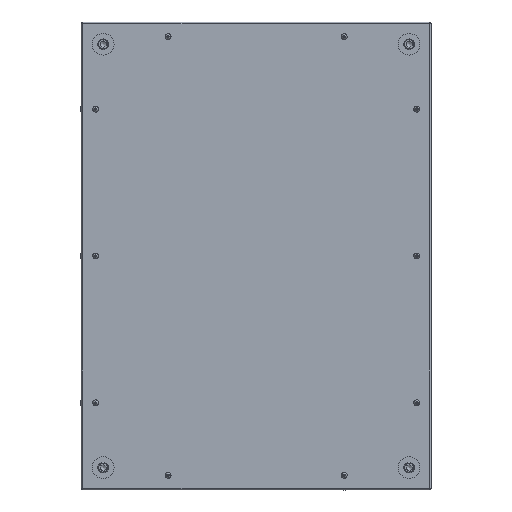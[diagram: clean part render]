
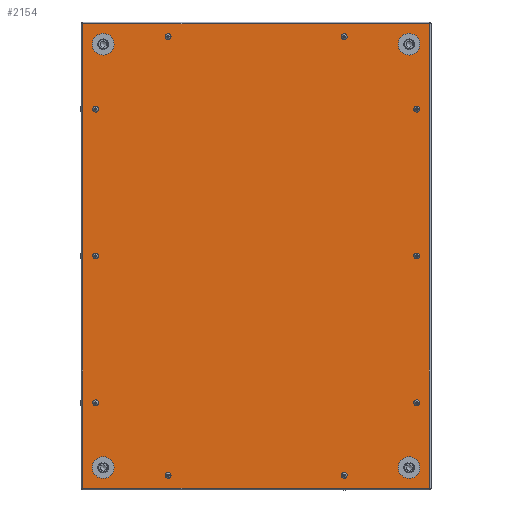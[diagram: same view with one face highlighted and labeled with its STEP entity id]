
A CAD part, top view. The second image highlights one B-rep face of the part: STEP entity #2154.
In plain terms, the highlighted planar face has unit normal (0, 0, 1).
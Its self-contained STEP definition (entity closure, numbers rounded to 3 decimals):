
#2154=ADVANCED_FACE('',(#3209,#3211,#3213,#3215,#3217,#3219,#3221,#3223,#3225,#3227,
#3229,#3231,#3233,#3235,#3237),#3239,.T.);
#3209=FACE_BOUND('',#3210,.T.);
#3210=EDGE_LOOP('',(#8692,#8693,#8694,#8695));
#3211=FACE_BOUND('',#3212,.T.);
#3212=EDGE_LOOP('',(#8696));
#3213=FACE_BOUND('',#3214,.T.);
#3214=EDGE_LOOP('',(#8697));
#3215=FACE_BOUND('',#3216,.T.);
#3216=EDGE_LOOP('',(#8698));
#3217=FACE_BOUND('',#3218,.T.);
#3218=EDGE_LOOP('',(#8699));
#3219=FACE_BOUND('',#3220,.T.);
#3220=EDGE_LOOP('',(#8700));
#3221=FACE_BOUND('',#3222,.T.);
#3222=EDGE_LOOP('',(#8701));
#3223=FACE_BOUND('',#3224,.T.);
#3224=EDGE_LOOP('',(#8702));
#3225=FACE_BOUND('',#3226,.T.);
#3226=EDGE_LOOP('',(#8703));
#3227=FACE_BOUND('',#3228,.T.);
#3228=EDGE_LOOP('',(#8704));
#3229=FACE_BOUND('',#3230,.T.);
#3230=EDGE_LOOP('',(#8705));
#3231=FACE_BOUND('',#3232,.T.);
#3232=EDGE_LOOP('',(#8706));
#3233=FACE_BOUND('',#3234,.T.);
#3234=EDGE_LOOP('',(#8707));
#3235=FACE_BOUND('',#3236,.T.);
#3236=EDGE_LOOP('',(#8708));
#3237=FACE_BOUND('',#3238,.T.);
#3238=EDGE_LOOP('',(#8709));
#3239=PLANE('',#3240);
#3240=AXIS2_PLACEMENT_3D('',#3241,#3242,#3243);
#3241=CARTESIAN_POINT('',(0.,0.,1.5));
#3242=DIRECTION('',(0.,0.,1.));
#3243=DIRECTION('',(0.,1.,0.));
#8692=ORIENTED_EDGE('',*,*,#10403,.T.);
#8693=ORIENTED_EDGE('',*,*,#10404,.T.);
#8694=ORIENTED_EDGE('',*,*,#10405,.T.);
#8695=ORIENTED_EDGE('',*,*,#10406,.T.);
#8696=ORIENTED_EDGE('',*,*,#10382,.T.);
#8697=ORIENTED_EDGE('',*,*,#10381,.T.);
#8698=ORIENTED_EDGE('',*,*,#10380,.T.);
#8699=ORIENTED_EDGE('',*,*,#10379,.T.);
#8700=ORIENTED_EDGE('',*,*,#10378,.T.);
#8701=ORIENTED_EDGE('',*,*,#10377,.T.);
#8702=ORIENTED_EDGE('',*,*,#10373,.T.);
#8703=ORIENTED_EDGE('',*,*,#10374,.T.);
#8704=ORIENTED_EDGE('',*,*,#10375,.T.);
#8705=ORIENTED_EDGE('',*,*,#10376,.T.);
#8706=ORIENTED_EDGE('',*,*,#10371,.T.);
#8707=ORIENTED_EDGE('',*,*,#10370,.T.);
#8708=ORIENTED_EDGE('',*,*,#10369,.T.);
#8709=ORIENTED_EDGE('',*,*,#10368,.T.);
#10368=EDGE_CURVE('',#11408,#11408,#11409,.F.);
#10369=EDGE_CURVE('',#11410,#11410,#11411,.F.);
#10370=EDGE_CURVE('',#11412,#11412,#11413,.F.);
#10371=EDGE_CURVE('',#11414,#11414,#11415,.F.);
#10373=EDGE_CURVE('',#11418,#11418,#11419,.F.);
#10374=EDGE_CURVE('',#11420,#11420,#11421,.F.);
#10375=EDGE_CURVE('',#11422,#11422,#11423,.F.);
#10376=EDGE_CURVE('',#11424,#11424,#11425,.F.);
#10377=EDGE_CURVE('',#11426,#11426,#11427,.F.);
#10378=EDGE_CURVE('',#11428,#11428,#11429,.F.);
#10379=EDGE_CURVE('',#11430,#11430,#11431,.F.);
#10380=EDGE_CURVE('',#11432,#11432,#11433,.F.);
#10381=EDGE_CURVE('',#11434,#11434,#11435,.F.);
#10382=EDGE_CURVE('',#11436,#11436,#11437,.F.);
#10403=EDGE_CURVE('',#11474,#11475,#11476,.T.);
#10404=EDGE_CURVE('',#11475,#11477,#11478,.T.);
#10405=EDGE_CURVE('',#11477,#11479,#11480,.T.);
#10406=EDGE_CURVE('',#11479,#11474,#11481,.T.);
#11408=VERTEX_POINT('',#13322);
#11409=CIRCLE('',#13323,3.75);
#11410=VERTEX_POINT('',#13327);
#11411=CIRCLE('',#13328,3.75);
#11412=VERTEX_POINT('',#13332);
#11413=CIRCLE('',#13333,3.75);
#11414=VERTEX_POINT('',#13337);
#11415=CIRCLE('',#13338,3.75);
#11418=VERTEX_POINT('',#13347);
#11419=CIRCLE('',#13348,7.);
#11420=VERTEX_POINT('',#13352);
#11421=CIRCLE('',#13353,7.);
#11422=VERTEX_POINT('',#13357);
#11423=CIRCLE('',#13358,7.);
#11424=VERTEX_POINT('',#13362);
#11425=CIRCLE('',#13363,7.);
#11426=VERTEX_POINT('',#13367);
#11427=CIRCLE('',#13368,3.75);
#11428=VERTEX_POINT('',#13372);
#11429=CIRCLE('',#13373,3.75);
#11430=VERTEX_POINT('',#13377);
#11431=CIRCLE('',#13378,3.75);
#11432=VERTEX_POINT('',#13382);
#11433=CIRCLE('',#13383,3.75);
#11434=VERTEX_POINT('',#13387);
#11435=CIRCLE('',#13388,3.75);
#11436=VERTEX_POINT('',#13392);
#11437=CIRCLE('',#13393,3.75);
#11474=VERTEX_POINT('',#13609);
#11475=VERTEX_POINT('',#13610);
#11476=LINE('',#13611,#13612);
#11477=VERTEX_POINT('',#13614);
#11478=LINE('',#13615,#13616);
#11479=VERTEX_POINT('',#13618);
#11480=LINE('',#13619,#13620);
#11481=LINE('',#13622,#13623);
#13322=CARTESIAN_POINT('',(-273.5,253.75,1.5));
#13323=AXIS2_PLACEMENT_3D('',#13324,#13325,#13326);
#13324=CARTESIAN_POINT('',(-273.5,250.,1.5));
#13325=DIRECTION('',(0.,0.,1.));
#13326=DIRECTION('',(0.,1.,0.));
#13327=CARTESIAN_POINT('',(273.5,-246.25,1.5));
#13328=AXIS2_PLACEMENT_3D('',#13329,#13330,#13331);
#13329=CARTESIAN_POINT('',(273.5,-250.,1.5));
#13330=DIRECTION('',(0.,0.,1.));
#13331=DIRECTION('',(0.,1.,0.));
#13332=CARTESIAN_POINT('',(273.5,253.75,1.5));
#13333=AXIS2_PLACEMENT_3D('',#13334,#13335,#13336);
#13334=CARTESIAN_POINT('',(273.5,250.,1.5));
#13335=DIRECTION('',(0.,0.,1.));
#13336=DIRECTION('',(0.,1.,0.));
#13337=CARTESIAN_POINT('',(-273.5,-246.25,1.5));
#13338=AXIS2_PLACEMENT_3D('',#13339,#13340,#13341);
#13339=CARTESIAN_POINT('',(-273.5,-250.,1.5));
#13340=DIRECTION('',(0.,0.,1.));
#13341=DIRECTION('',(0.,1.,0.));
#13347=CARTESIAN_POINT('',(260.5,367.5,1.5));
#13348=AXIS2_PLACEMENT_3D('',#13349,#13350,#13351);
#13349=CARTESIAN_POINT('',(260.5,360.5,1.5));
#13350=DIRECTION('',(0.,0.,1.));
#13351=DIRECTION('',(0.,1.,0.));
#13352=CARTESIAN_POINT('',(-260.5,-353.5,1.5));
#13353=AXIS2_PLACEMENT_3D('',#13354,#13355,#13356);
#13354=CARTESIAN_POINT('',(-260.5,-360.5,1.5));
#13355=DIRECTION('',(0.,0.,1.));
#13356=DIRECTION('',(0.,1.,0.));
#13357=CARTESIAN_POINT('',(-260.5,367.5,1.5));
#13358=AXIS2_PLACEMENT_3D('',#13359,#13360,#13361);
#13359=CARTESIAN_POINT('',(-260.5,360.5,1.5));
#13360=DIRECTION('',(0.,0.,1.));
#13361=DIRECTION('',(0.,1.,0.));
#13362=CARTESIAN_POINT('',(260.5,-353.5,1.5));
#13363=AXIS2_PLACEMENT_3D('',#13364,#13365,#13366);
#13364=CARTESIAN_POINT('',(260.5,-360.5,1.5));
#13365=DIRECTION('',(0.,0.,1.));
#13366=DIRECTION('',(0.,1.,0.));
#13367=CARTESIAN_POINT('',(-273.5,3.75,1.5));
#13368=AXIS2_PLACEMENT_3D('',#13369,#13370,#13371);
#13369=CARTESIAN_POINT('',(-273.5,0.,1.5));
#13370=DIRECTION('',(0.,0.,1.));
#13371=DIRECTION('',(0.,1.,0.));
#13372=CARTESIAN_POINT('',(273.5,3.75,1.5));
#13373=AXIS2_PLACEMENT_3D('',#13374,#13375,#13376);
#13374=CARTESIAN_POINT('',(273.5,0.,1.5));
#13375=DIRECTION('',(0.,0.,1.));
#13376=DIRECTION('',(0.,1.,0.));
#13377=CARTESIAN_POINT('',(-150.,-369.75,1.5));
#13378=AXIS2_PLACEMENT_3D('',#13379,#13380,#13381);
#13379=CARTESIAN_POINT('',(-150.,-373.5,1.5));
#13380=DIRECTION('',(0.,0.,1.));
#13381=DIRECTION('',(0.,1.,0.));
#13382=CARTESIAN_POINT('',(150.,377.25,1.5));
#13383=AXIS2_PLACEMENT_3D('',#13384,#13385,#13386);
#13384=CARTESIAN_POINT('',(150.,373.5,1.5));
#13385=DIRECTION('',(0.,0.,1.));
#13386=DIRECTION('',(0.,1.,0.));
#13387=CARTESIAN_POINT('',(-150.,377.25,1.5));
#13388=AXIS2_PLACEMENT_3D('',#13389,#13390,#13391);
#13389=CARTESIAN_POINT('',(-150.,373.5,1.5));
#13390=DIRECTION('',(0.,0.,1.));
#13391=DIRECTION('',(0.,1.,0.));
#13392=CARTESIAN_POINT('',(150.,-369.75,1.5));
#13393=AXIS2_PLACEMENT_3D('',#13394,#13395,#13396);
#13394=CARTESIAN_POINT('',(150.,-373.5,1.5));
#13395=DIRECTION('',(0.,0.,1.));
#13396=DIRECTION('',(0.,1.,0.));
#13609=CARTESIAN_POINT('',(295.2,395.2,1.5));
#13610=CARTESIAN_POINT('',(-295.2,395.2,1.5));
#13611=CARTESIAN_POINT('',(295.2,395.2,1.5));
#13612=VECTOR('',#13613,1.);
#13613=DIRECTION('',(-1.,0.,0.));
#13614=CARTESIAN_POINT('',(-295.2,-395.2,1.5));
#13615=CARTESIAN_POINT('',(-295.2,395.2,1.5));
#13616=VECTOR('',#13617,1.);
#13617=DIRECTION('',(0.,-1.,0.));
#13618=CARTESIAN_POINT('',(295.2,-395.2,1.5));
#13619=CARTESIAN_POINT('',(-295.2,-395.2,1.5));
#13620=VECTOR('',#13621,1.);
#13621=DIRECTION('',(1.,0.,0.));
#13622=CARTESIAN_POINT('',(295.2,-395.2,1.5));
#13623=VECTOR('',#13624,1.);
#13624=DIRECTION('',(0.,1.,0.));
